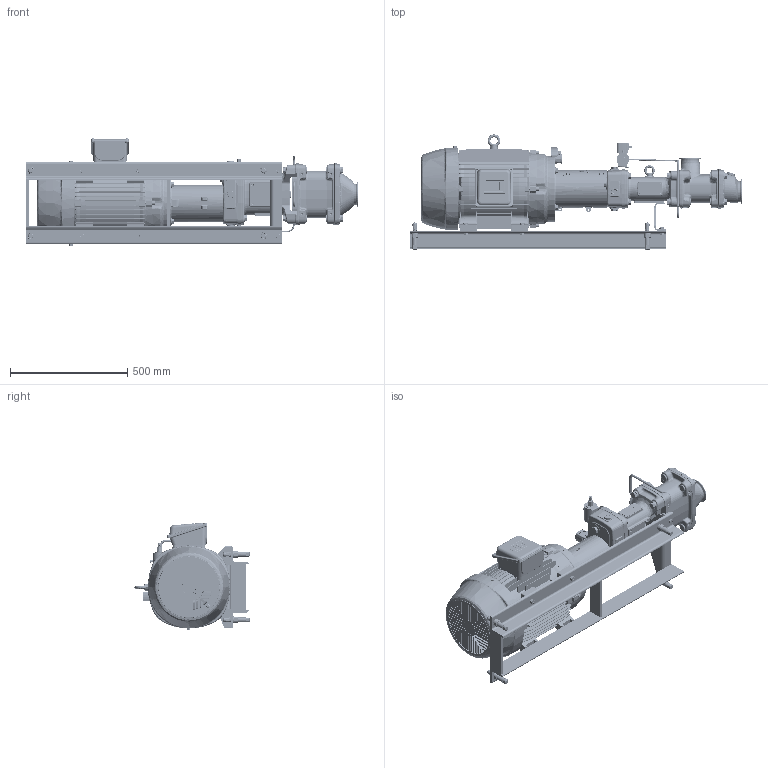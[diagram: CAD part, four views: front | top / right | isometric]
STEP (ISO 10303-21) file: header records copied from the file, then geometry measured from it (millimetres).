
FILE_DESCRIPTION (( 'STEP AP214' ), '1' );
FILE_NAME ('Twin Screw Pump VT104 on F3 with NEMA280 - 001808.STEP', '2025-04-04T12:41:50', ( '' ), ( '' ), 'SwSTEP 2.0', 'SolidWorks 2023', '' );
FILE_SCHEMA (( 'AUTOMOTIVE_DESIGN' ));
Length unit declared in the file: metre
Products named in the file (1): Twin Screw Pump VT104 on F3 with NEMA280 - 001808
Bounding box: 1415.85 x 490.8 x 458.07 mm (x, y, z)
Volume: 68875658.1 mm3; surface area: 4713359.7 mm2
Topology: 124 solids, 134 shells, 13753 faces, 35447 edges, 22444 vertices
Faces by surface type: plane 5885, bspline 3146, cylinder 2330, cone 1401, torus 750, sphere 241
Entity records: 825414 total; most frequent: CARTESIAN_POINT 362190, ORIENTED_EDGE 70010, DIRECTION 55472, EDGE_CURVE 35005, VERTEX_POINT 22344, AXIS2_PLACEMENT_3D 19078, VECTOR 17316, LINE 17316
